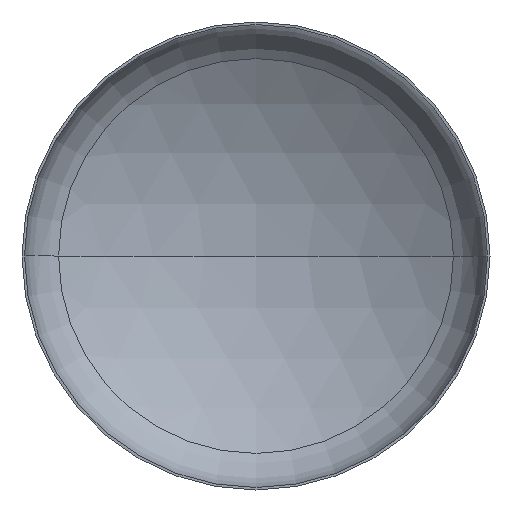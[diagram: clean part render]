
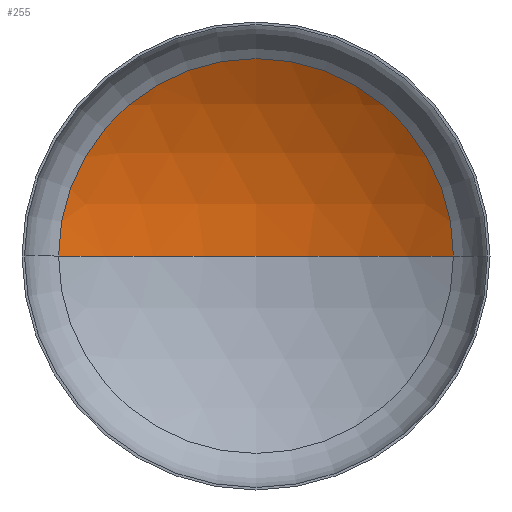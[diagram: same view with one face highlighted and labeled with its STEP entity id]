
A CAD part, front view. The second image highlights one B-rep face of the part: STEP entity #255.
In plain terms, the highlighted spherical face has radius 6000 mm.
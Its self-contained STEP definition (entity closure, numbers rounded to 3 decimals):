
#2 = DIRECTION ( 'NONE',  ( 1., 0., 0. ) ) ;
#4 = DIRECTION ( 'NONE',  ( 0., 0., 1. ) ) ;
#17 = CARTESIAN_POINT ( 'NONE',  ( -3164.087, 1101.345, 0. ) ) ;
#28 = CIRCLE ( 'NONE', #49, 6000. ) ;
#34 = AXIS2_PLACEMENT_3D ( 'NONE', #114, #394, #126 ) ;
#36 = VERTEX_POINT ( 'NONE', #258 ) ;
#42 = CIRCLE ( 'NONE', #64, 3164.087 ) ;
#49 = AXIS2_PLACEMENT_3D ( 'NONE', #383, #4, #2 ) ;
#50 = ORIENTED_EDGE ( 'NONE', *, *, #109, .T. ) ;
#58 = AXIS2_PLACEMENT_3D ( 'NONE', #283, #187, #180 ) ;
#64 = AXIS2_PLACEMENT_3D ( 'NONE', #282, #280, #278 ) ;
#67 = ORIENTED_EDGE ( 'NONE', *, *, #118, .T. ) ;
#109 = EDGE_CURVE ( 'NONE', #36, #204, #42, .T. ) ;
#114 = CARTESIAN_POINT ( 'NONE',  ( 0., -3996.552, 0. ) ) ;
#118 = EDGE_CURVE ( 'NONE', #168, #36, #373, .T. ) ;
#123 = CARTESIAN_POINT ( 'NONE',  ( 0., 2003.448, 0. ) ) ;
#126 = DIRECTION ( 'NONE',  ( -1., 0., 0. ) ) ;
#127 = EDGE_CURVE ( 'NONE', #168, #204, #28, .T. ) ;
#143 = ORIENTED_EDGE ( 'NONE', *, *, #127, .F. ) ;
#168 = VERTEX_POINT ( 'NONE', #123 ) ;
#180 = DIRECTION ( 'NONE',  ( -1., 0., 0. ) ) ;
#187 = DIRECTION ( 'NONE',  ( 0., 0., -1. ) ) ;
#204 = VERTEX_POINT ( 'NONE', #17 ) ;
#210 = EDGE_LOOP ( 'NONE', ( #143, #67, #50 ) ) ;
#255 = ADVANCED_FACE ( 'NONE', ( #295 ), #402, .F. ) ;
#258 = CARTESIAN_POINT ( 'NONE',  ( 3164.087, 1101.345, 0. ) ) ;
#278 = DIRECTION ( 'NONE',  ( 1., 0., 0. ) ) ;
#280 = DIRECTION ( 'NONE',  ( 0., -1., 0. ) ) ;
#282 = CARTESIAN_POINT ( 'NONE',  ( 0., 1101.345, 0. ) ) ;
#283 = CARTESIAN_POINT ( 'NONE',  ( 0., -3996.552, 0. ) ) ;
#295 = FACE_OUTER_BOUND ( 'NONE', #210, .T. ) ;
#373 = CIRCLE ( 'NONE', #58, 6000. ) ;
#383 = CARTESIAN_POINT ( 'NONE',  ( 0., -3996.552, 0. ) ) ;
#394 = DIRECTION ( 'NONE',  ( 0., 0., -1. ) ) ;
#402 = SPHERICAL_SURFACE ( 'NONE', #34, 6000. ) ;
